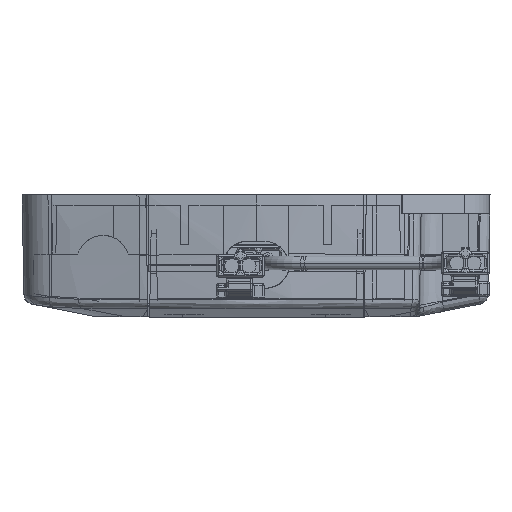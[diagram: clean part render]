
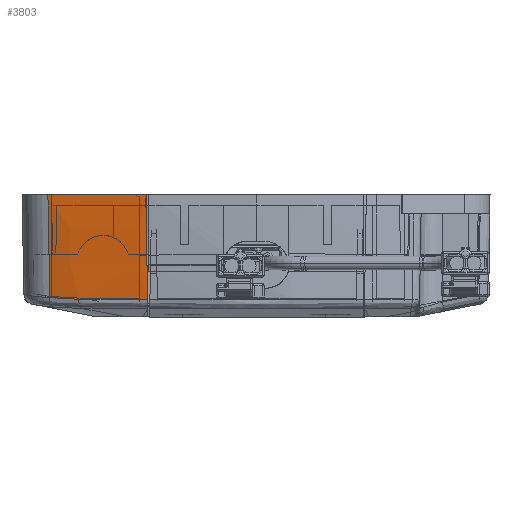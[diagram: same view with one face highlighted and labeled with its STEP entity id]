
A CAD part, left-side view. The second image highlights one B-rep face of the part: STEP entity #3803.
In plain terms, the highlighted free-form (B-spline) face has degree [3, 3] with [10, 4] control points.
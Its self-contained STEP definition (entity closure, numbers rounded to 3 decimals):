
#178 = CARTESIAN_POINT ( 'NONE',  ( -61.419, 7.456, 11.682 ) ) ;
#505 = CARTESIAN_POINT ( 'NONE',  ( -60.135, 3.877, 18.029 ) ) ;
#731 = CARTESIAN_POINT ( 'NONE',  ( -61.498, 3.877, 11.586 ) ) ;
#1139 = CARTESIAN_POINT ( 'NONE',  ( -59.079, 7.675, 21.124 ) ) ;
#2508 = CARTESIAN_POINT ( 'NONE',  ( -61.419, 7.456, 11.682 ) ) ;
#3621 = CARTESIAN_POINT ( 'NONE',  ( -60.263, -3.719, 18.065 ) ) ;
#3803 = ADVANCED_FACE ( 'NONE', ( #17553 ), #36436, .T. ) ;
#4267 = CARTESIAN_POINT ( 'NONE',  ( -58.732, 7.675, 22.148 ) ) ;
#4377 = B_SPLINE_CURVE_WITH_KNOTS ( 'NONE', 3,
 ( #9748, #29953, #33289, #30828 ),
 .UNSPECIFIED., .F., .F.,
 ( 4, 4 ),
 ( 0., 1. ),
 .UNSPECIFIED. ) ;
#4715 = CARTESIAN_POINT ( 'NONE',  ( -61.587, -3.5, 11.839 ) ) ;
#5296 = CARTESIAN_POINT ( 'NONE',  ( -58.852, 3.688, 22.013 ) ) ;
#5514 = CARTESIAN_POINT ( 'NONE',  ( -59.007, -3.5, 21.948 ) ) ;
#5981 = VERTEX_POINT ( 'NONE', #21582 ) ;
#6386 = CARTESIAN_POINT ( 'NONE',  ( -58.808, 7.282, 21.948 ) ) ;
#6921 = CARTESIAN_POINT ( 'NONE',  ( -61.046, -3.719, 14.918 ) ) ;
#7512 = CARTESIAN_POINT ( 'NONE',  ( -59.763, 7.448, 18.908 ) ) ;
#7574 = CARTESIAN_POINT ( 'NONE',  ( -61.534, -3.719, 12.172 ) ) ;
#7731 = CARTESIAN_POINT ( 'NONE',  ( -58.808, 7.282, 21.948 ) ) ;
#7860 = B_SPLINE_CURVE_WITH_KNOTS ( 'NONE', 3,
 ( #15047, #29048, #42132, #42586, #39255, #11719, #5514, #35475 ),
 .UNSPECIFIED., .F., .F.,
 ( 4, 1, 1, 1, 1, 4 ),
 ( 0., 0.03, 0.077, 0.773, 0.942, 1. ),
 .UNSPECIFIED. ) ;
#8985 = ORIENTED_EDGE ( 'NONE', *, *, #38698, .T. ) ;
#9009 = ORIENTED_EDGE ( 'NONE', *, *, #23417, .T. ) ;
#9423 = B_SPLINE_CURVE_WITH_KNOTS ( 'NONE', 3,
 ( #41914, #42346, #5296, #6386 ),
 .UNSPECIFIED., .F., .F.,
 ( 4, 4 ),
 ( 0., 1. ),
 .UNSPECIFIED. ) ;
#9748 = CARTESIAN_POINT ( 'NONE',  ( -61.551, -1.5, 11.839 ) ) ;
#10476 = CARTESIAN_POINT ( 'NONE',  ( -61.623, -3.719, 11.643 ) ) ;
#10918 = CARTESIAN_POINT ( 'NONE',  ( -60.071, 7.675, 18.011 ) ) ;
#11125 = CARTESIAN_POINT ( 'NONE',  ( -61.397, 7.675, 11.791 ) ) ;
#11719 = CARTESIAN_POINT ( 'NONE',  ( -59.264, -3.5, 21.185 ) ) ;
#13158 = CARTESIAN_POINT ( 'NONE',  ( -59.763, 7.448, 18.908 ) ) ;
#13797 = CARTESIAN_POINT ( 'NONE',  ( -58.909, -3.719, 22.246 ) ) ;
#14127 = CARTESIAN_POINT ( 'NONE',  ( -61.419, 7.456, 11.682 ) ) ;
#14188 = EDGE_CURVE ( 'NONE', #42815, #29167, #4377, .T. ) ;
#14245 = CARTESIAN_POINT ( 'NONE',  ( -61.492, 3.877, 11.622 ) ) ;
#14657 = CARTESIAN_POINT ( 'NONE',  ( -58.921, -3.719, 22.212 ) ) ;
#14941 = CARTESIAN_POINT ( 'NONE',  ( -61.551, -1.5, 11.839 ) ) ;
#15047 = CARTESIAN_POINT ( 'NONE',  ( -61.587, -3.5, 11.839 ) ) ;
#15249 = CARTESIAN_POINT ( 'NONE',  ( -59.144, 7.39, 20.952 ) ) ;
#15459 = CARTESIAN_POINT ( 'NONE',  ( -58.94, -3.5, 22.143 ) ) ;
#17341 = CARTESIAN_POINT ( 'NONE',  ( -58.936, 0.079, 21.962 ) ) ;
#17553 = FACE_OUTER_BOUND ( 'NONE', #25185, .T. ) ;
#17684 = ORIENTED_EDGE ( 'NONE', *, *, #43651, .T. ) ;
#17778 = CARTESIAN_POINT ( 'NONE',  ( -58.846, 0.079, 22.225 ) ) ;
#17990 = CARTESIAN_POINT ( 'NONE',  ( -61.433, 7.675, 11.576 ) ) ;
#18402 = ORIENTED_EDGE ( 'NONE', *, *, #18539, .T. ) ;
#18539 = EDGE_CURVE ( 'NONE', #27928, #43592, #37602, .T. ) ;
#19131 = B_SPLINE_CURVE_WITH_KNOTS ( 'NONE', 3,
 ( #7731, #15249, #41908, #7512 ),
 .UNSPECIFIED., .F., .F.,
 ( 4, 4 ),
 ( 0., 1. ),
 .UNSPECIFIED. ) ;
#20220 = CARTESIAN_POINT ( 'NONE',  ( -61.099, 7.451, 13.617 ) ) ;
#20446 = CARTESIAN_POINT ( 'NONE',  ( -61.427, 7.675, 11.611 ) ) ;
#20669 = CARTESIAN_POINT ( 'NONE',  ( -60.199, 0.079, 18.047 ) ) ;
#21096 = CARTESIAN_POINT ( 'NONE',  ( -59.205, 0.079, 21.165 ) ) ;
#21323 = CARTESIAN_POINT ( 'NONE',  ( -61.404, 3.877, 12.149 ) ) ;
#21582 = CARTESIAN_POINT ( 'NONE',  ( -58.808, 7.282, 21.948 ) ) ;
#21800 = CARTESIAN_POINT ( 'NONE',  ( -61.463, 4.471, 11.734 ) ) ;
#23417 = EDGE_CURVE ( 'NONE', #29167, #36414, #7860, .T. ) ;
#24019 = CARTESIAN_POINT ( 'NONE',  ( -58.721, 7.675, 22.182 ) ) ;
#24458 = CARTESIAN_POINT ( 'NONE',  ( -61.629, -3.719, 11.608 ) ) ;
#24673 = CARTESIAN_POINT ( 'NONE',  ( -60.852, 7.675, 14.874 ) ) ;
#25185 = EDGE_LOOP ( 'NONE', ( #25454, #18402, #17684, #26918, #9009, #8985 ) ) ;
#25454 = ORIENTED_EDGE ( 'NONE', *, *, #30974, .T. ) ;
#26774 = CARTESIAN_POINT ( 'NONE',  ( -61.551, -1.5, 11.839 ) ) ;
#26918 = ORIENTED_EDGE ( 'NONE', *, *, #14188, .T. ) ;
#27346 = CARTESIAN_POINT ( 'NONE',  ( -60.917, 3.877, 14.889 ) ) ;
#27544 = B_SPLINE_CURVE_WITH_KNOTS ( 'NONE', 3,
 ( #14127, #21800, #27684, #14941 ),
 .UNSPECIFIED., .F., .F.,
 ( 4, 4 ),
 ( 0., 1. ),
 .UNSPECIFIED. ) ;
#27684 = CARTESIAN_POINT ( 'NONE',  ( -61.507, 1.485, 11.786 ) ) ;
#27796 = CARTESIAN_POINT ( 'NONE',  ( -61.338, 7.675, 12.138 ) ) ;
#27928 = VERTEX_POINT ( 'NONE', #13158 ) ;
#28002 = CARTESIAN_POINT ( 'NONE',  ( -61.463, 3.877, 11.802 ) ) ;
#28209 = CARTESIAN_POINT ( 'NONE',  ( -61.469, 0.079, 12.161 ) ) ;
#29048 = CARTESIAN_POINT ( 'NONE',  ( -61.569, -3.5, 11.942 ) ) ;
#29167 = VERTEX_POINT ( 'NONE', #4715 ) ;
#29953 = CARTESIAN_POINT ( 'NONE',  ( -61.563, -2.167, 11.839 ) ) ;
#30670 = CARTESIAN_POINT ( 'NONE',  ( -61.593, -3.719, 11.824 ) ) ;
#30828 = CARTESIAN_POINT ( 'NONE',  ( -61.587, -3.5, 11.839 ) ) ;
#30887 = CARTESIAN_POINT ( 'NONE',  ( -58.795, 3.877, 22.169 ) ) ;
#30974 = EDGE_CURVE ( 'NONE', #5981, #27928, #19131, .T. ) ;
#31109 = CARTESIAN_POINT ( 'NONE',  ( -61.558, 0.079, 11.632 ) ) ;
#31331 = CARTESIAN_POINT ( 'NONE',  ( -59.142, 3.877, 21.145 ) ) ;
#31537 = CARTESIAN_POINT ( 'NONE',  ( -59.268, -3.719, 21.186 ) ) ;
#33124 = CARTESIAN_POINT ( 'NONE',  ( -59.763, 7.448, 18.908 ) ) ;
#33289 = CARTESIAN_POINT ( 'NONE',  ( -61.575, -2.833, 11.839 ) ) ;
#34225 = CARTESIAN_POINT ( 'NONE',  ( -61.563, 0.079, 11.597 ) ) ;
#34655 = CARTESIAN_POINT ( 'NONE',  ( -58.873, 3.877, 21.94 ) ) ;
#35475 = CARTESIAN_POINT ( 'NONE',  ( -58.94, -3.5, 22.143 ) ) ;
#36414 = VERTEX_POINT ( 'NONE', #15459 ) ;
#36436 = B_SPLINE_SURFACE_WITH_KNOTS ( 'NONE', 3, 3, ( 
 ( #24458, #34225, #731, #17990 ),
 ( #10476, #31109, #14245, #20446 ),
 ( #30670, #37984, #28002, #11125 ),
 ( #7574, #28209, #21323, #27796 ),
 ( #6921, #41324, #27346, #24673 ),
 ( #3621, #20669, #505, #10918 ),
 ( #31537, #21096, #31331, #1139 ),
 ( #40886, #17341, #34655, #41523 ),
 ( #14657, #37567, #30887, #4267 ),
 ( #13797, #17778, #38208, #24019 ) ),
 .UNSPECIFIED., .F., .F., .F.,
 ( 4, 1, 1, 1, 1, 1, 1, 4 ),
 ( 4, 4 ),
 ( -0.01, 0., 0.041, 0.088, 0.776, 0.943, 1., 1.01 ),
 ( 0., 1. ),
 .UNSPECIFIED. ) ;
#37567 = CARTESIAN_POINT ( 'NONE',  ( -58.858, 0.079, 22.191 ) ) ;
#37602 = B_SPLINE_CURVE_WITH_KNOTS ( 'NONE', 3,
 ( #33124, #43334, #20220, #2508 ),
 .UNSPECIFIED., .F., .F.,
 ( 4, 4 ),
 ( 0., 1. ),
 .UNSPECIFIED. ) ;
#37984 = CARTESIAN_POINT ( 'NONE',  ( -61.528, 0.079, 11.813 ) ) ;
#38208 = CARTESIAN_POINT ( 'NONE',  ( -58.784, 3.877, 22.203 ) ) ;
#38698 = EDGE_CURVE ( 'NONE', #36414, #5981, #9423, .T. ) ;
#39255 = CARTESIAN_POINT ( 'NONE',  ( -60.26, -3.5, 18.064 ) ) ;
#40886 = CARTESIAN_POINT ( 'NONE',  ( -58.999, -3.719, 21.983 ) ) ;
#41324 = CARTESIAN_POINT ( 'NONE',  ( -60.981, 0.079, 14.903 ) ) ;
#41523 = CARTESIAN_POINT ( 'NONE',  ( -58.811, 7.675, 21.919 ) ) ;
#41908 = CARTESIAN_POINT ( 'NONE',  ( -59.464, 7.445, 19.939 ) ) ;
#41914 = CARTESIAN_POINT ( 'NONE',  ( -58.94, -3.5, 22.143 ) ) ;
#42132 = CARTESIAN_POINT ( 'NONE',  ( -61.523, -3.5, 12.213 ) ) ;
#42346 = CARTESIAN_POINT ( 'NONE',  ( -58.896, 0.094, 22.078 ) ) ;
#42586 = CARTESIAN_POINT ( 'NONE',  ( -61.042, -3.5, 14.917 ) ) ;
#42815 = VERTEX_POINT ( 'NONE', #26774 ) ;
#43334 = CARTESIAN_POINT ( 'NONE',  ( -60.596, 7.448, 16.041 ) ) ;
#43592 = VERTEX_POINT ( 'NONE', #178 ) ;
#43651 = EDGE_CURVE ( 'NONE', #43592, #42815, #27544, .T. ) ;
